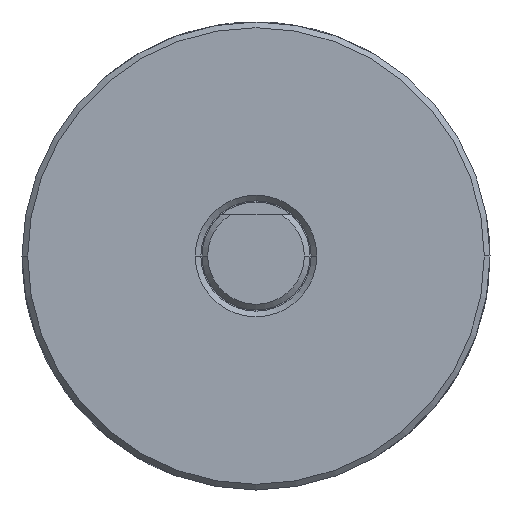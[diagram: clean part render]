
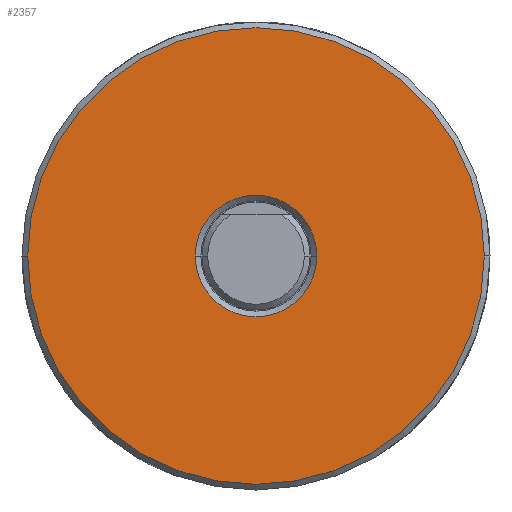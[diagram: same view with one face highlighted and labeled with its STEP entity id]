
A CAD part, left-side view. The second image highlights one B-rep face of the part: STEP entity #2357.
In plain terms, the highlighted planar face has unit normal (-1, 0, 0).
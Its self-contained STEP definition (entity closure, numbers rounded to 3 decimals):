
#388 = EDGE_CURVE ( 'NONE', #389, #390, #4417, .T. ) ;
#389 = VERTEX_POINT ( 'NONE', #4412 ) ;
#390 = VERTEX_POINT ( 'NONE', #4411 ) ;
#2357 = ADVANCED_FACE ( 'NONE', ( #10525, #10524 ), #10523, .T. ) ;
#2358 = EDGE_LOOP ( 'NONE', ( #2359, #2360 ) ) ;
#2359 = ORIENTED_EDGE ( 'NONE', *, *, #14441, .T. ) ;
#2360 = ORIENTED_EDGE ( 'NONE', *, *, #2361, .T. ) ;
#2361 = EDGE_CURVE ( 'NONE', #14377, #14444, #10574, .T. ) ;
#2362 = EDGE_LOOP ( 'NONE', ( #2363, #2365 ) ) ;
#2363 = ORIENTED_EDGE ( 'NONE', *, *, #2364, .T. ) ;
#2364 = EDGE_CURVE ( 'NONE', #390, #389, #10569, .T. ) ;
#2365 = ORIENTED_EDGE ( 'NONE', *, *, #388, .T. ) ;
#4411 = CARTESIAN_POINT ( 'NONE',  ( 22.1, 20.137, 0. ) ) ;
#4412 = CARTESIAN_POINT ( 'NONE',  ( 22.1, -20.137, 0. ) ) ;
#4413 = DIRECTION ( 'NONE',  ( 0., -1., 0. ) ) ;
#4414 = DIRECTION ( 'NONE',  ( -1., 0., 0. ) ) ;
#4415 = CARTESIAN_POINT ( 'NONE',  ( 22.1, 0., 0. ) ) ;
#4416 = AXIS2_PLACEMENT_3D ( 'NONE', #4415, #4414, #4413 ) ;
#4417 = CIRCLE ( 'NONE', #4416, 20.137 ) ;
#10523 = PLANE ( 'NONE',  #10578 ) ;
#10524 = FACE_OUTER_BOUND ( 'NONE', #2362, .T. ) ;
#10525 = FACE_BOUND ( 'NONE', #2358, .T. ) ;
#10565 = DIRECTION ( 'NONE',  ( 0., -1., 0. ) ) ;
#10566 = DIRECTION ( 'NONE',  ( -1., 0., 0. ) ) ;
#10567 = CARTESIAN_POINT ( 'NONE',  ( 22.1, 0., 0. ) ) ;
#10568 = AXIS2_PLACEMENT_3D ( 'NONE', #10567, #10566, #10565 ) ;
#10569 = CIRCLE ( 'NONE', #10568, 20.137 ) ;
#10570 = DIRECTION ( 'NONE',  ( 0., -1., 0. ) ) ;
#10571 = DIRECTION ( 'NONE',  ( 1., 0., 0. ) ) ;
#10572 = CARTESIAN_POINT ( 'NONE',  ( 22.1, 0., 0. ) ) ;
#10573 = AXIS2_PLACEMENT_3D ( 'NONE', #10572, #10571, #10570 ) ;
#10574 = CIRCLE ( 'NONE', #10573, 5.363 ) ;
#10575 = DIRECTION ( 'NONE',  ( 0., -1., 0. ) ) ;
#10576 = DIRECTION ( 'NONE',  ( -1., 0., 0. ) ) ;
#10577 = CARTESIAN_POINT ( 'NONE',  ( 22.1, 4.763, 0. ) ) ;
#10578 = AXIS2_PLACEMENT_3D ( 'NONE', #10577, #10576, #10575 ) ;
#13771 = CARTESIAN_POINT ( 'NONE',  ( 22.1, 5.363, 0. ) ) ;
#14124 = CARTESIAN_POINT ( 'NONE',  ( 22.1, -5.363, 0. ) ) ;
#14127 = DIRECTION ( 'NONE',  ( 0., -1., 0. ) ) ;
#14128 = DIRECTION ( 'NONE',  ( 1., 0., 0. ) ) ;
#14129 = CARTESIAN_POINT ( 'NONE',  ( 22.1, 0., 0. ) ) ;
#14130 = AXIS2_PLACEMENT_3D ( 'NONE', #14129, #14128, #14127 ) ;
#14131 = CIRCLE ( 'NONE', #14130, 5.363 ) ;
#14377 = VERTEX_POINT ( 'NONE', #13771 ) ;
#14441 = EDGE_CURVE ( 'NONE', #14444, #14377, #14131, .T. ) ;
#14444 = VERTEX_POINT ( 'NONE', #14124 ) ;
